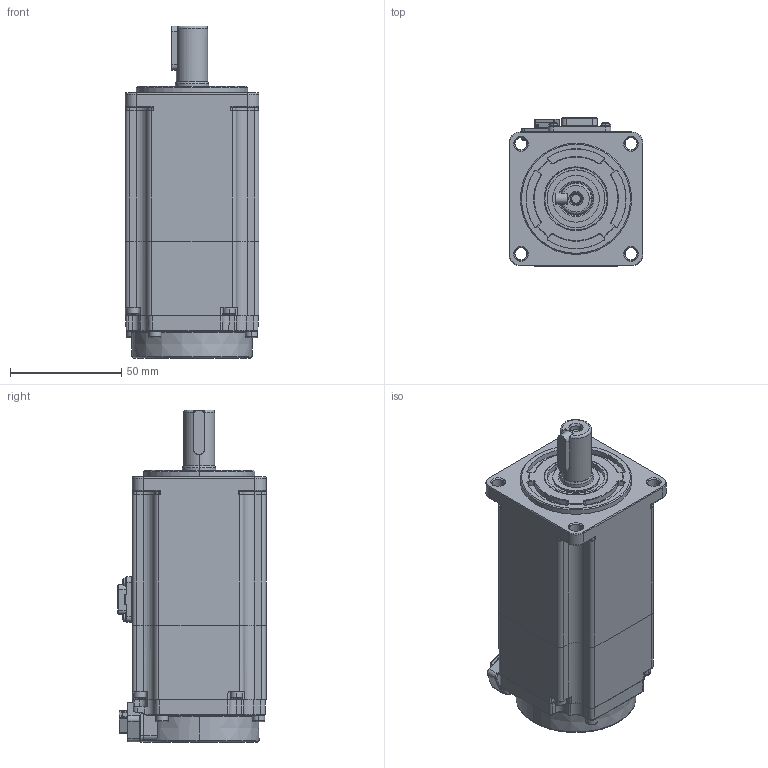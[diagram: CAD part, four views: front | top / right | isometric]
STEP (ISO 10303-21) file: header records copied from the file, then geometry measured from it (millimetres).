
FILE_DESCRIPTION (( 'STEP AP203' ), '1' );
FILE_NAME ('G3系列60ST-400W刹车电机三维图-三竹插拔头.STEP', '2023-09-27T05:27:08', ( '微软用户' ), ( '微软中国' ), 'SwSTEP 2.0', 'SolidWorks 2016', '' );
FILE_SCHEMA (( 'CONFIG_CONTROL_DESIGN' ));
Products named in the file (1): G3系列60ST-400W刹车电机三维图-三竹插拔头
Bounding box: 60.2 x 66.6 x 149.3 mm (x, y, z)
Surface area: 89400.9 mm2 (no closed solid volume)
Topology: 0 solids, 20 shells, 3509 faces, 9065 edges, 5774 vertices
Faces by surface type: plane 1989, cylinder 698, bspline 375, cone 324, torus 115, sphere 8
Entity records: 116872 total; most frequent: CARTESIAN_POINT 33257, ORIENTED_EDGE 18052, DIRECTION 16362, EDGE_CURVE 9040, VERTEX_POINT 5774, LINE 5720, VECTOR 5720, AXIS2_PLACEMENT_3D 5321
